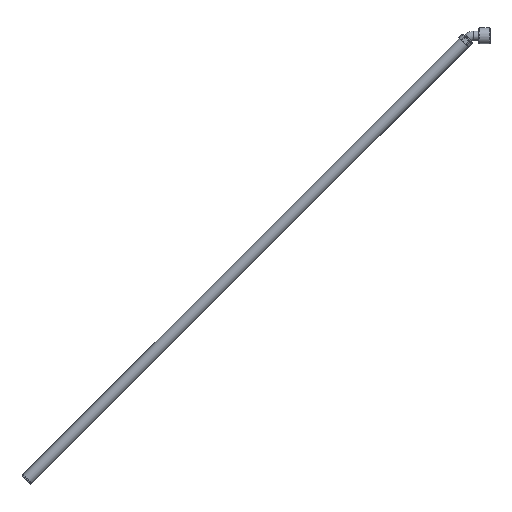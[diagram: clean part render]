
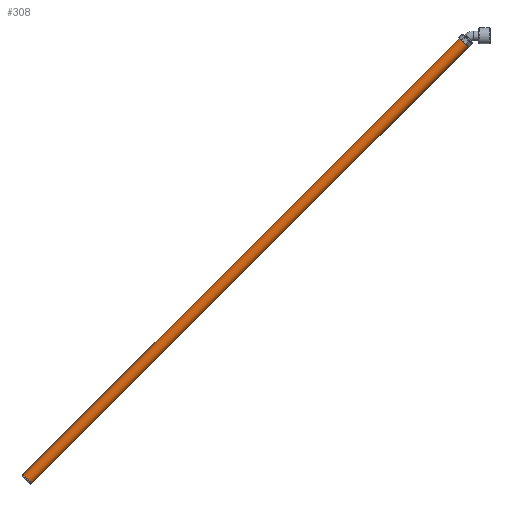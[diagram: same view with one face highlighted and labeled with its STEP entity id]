
A CAD part, top view. The second image highlights one B-rep face of the part: STEP entity #308.
In plain terms, the highlighted cylindrical face has radius 10 mm (diameter 20 mm), a full revolution.
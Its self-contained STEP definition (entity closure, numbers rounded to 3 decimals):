
#308 = ADVANCED_FACE( '', ( #427, #428 ), #429, .T. );
#427 = FACE_OUTER_BOUND( '', #595, .T. );
#428 = FACE_OUTER_BOUND( '', #596, .T. );
#429 = CYLINDRICAL_SURFACE( '', #597, 10. );
#595 = EDGE_LOOP( '', ( #818 ) );
#596 = EDGE_LOOP( '', ( #819 ) );
#597 = AXIS2_PLACEMENT_3D( '', #820, #821, #822 );
#818 = ORIENTED_EDGE( '', *, *, #1047, .T. );
#819 = ORIENTED_EDGE( '', *, *, #1049, .F. );
#820 = CARTESIAN_POINT( '', ( 1000., 0., 0. ) );
#821 = DIRECTION( '', ( -1., 0., 0. ) );
#822 = DIRECTION( '', ( 0., 0., -1. ) );
#1047 = EDGE_CURVE( '', #1154, #1154, #1155, .T. );
#1049 = EDGE_CURVE( '', #1158, #1158, #1159, .T. );
#1154 = VERTEX_POINT( '', #1304 );
#1155 = CIRCLE( '', #1305, 10. );
#1158 = VERTEX_POINT( '', #1308 );
#1159 = CIRCLE( '', #1309, 10. );
#1304 = CARTESIAN_POINT( '', ( 0., 0., -10. ) );
#1305 = AXIS2_PLACEMENT_3D( '', #1504, #1505, #1506 );
#1308 = CARTESIAN_POINT( '', ( 1000., 0., -10. ) );
#1309 = AXIS2_PLACEMENT_3D( '', #1510, #1511, #1512 );
#1504 = CARTESIAN_POINT( '', ( 0., 0., 0. ) );
#1505 = DIRECTION( '', ( 1., 0., 0. ) );
#1506 = DIRECTION( '', ( 0., 0., -1. ) );
#1510 = CARTESIAN_POINT( '', ( 1000., 0., 0. ) );
#1511 = DIRECTION( '', ( 1., 0., 0. ) );
#1512 = DIRECTION( '', ( 0., 0., -1. ) );
